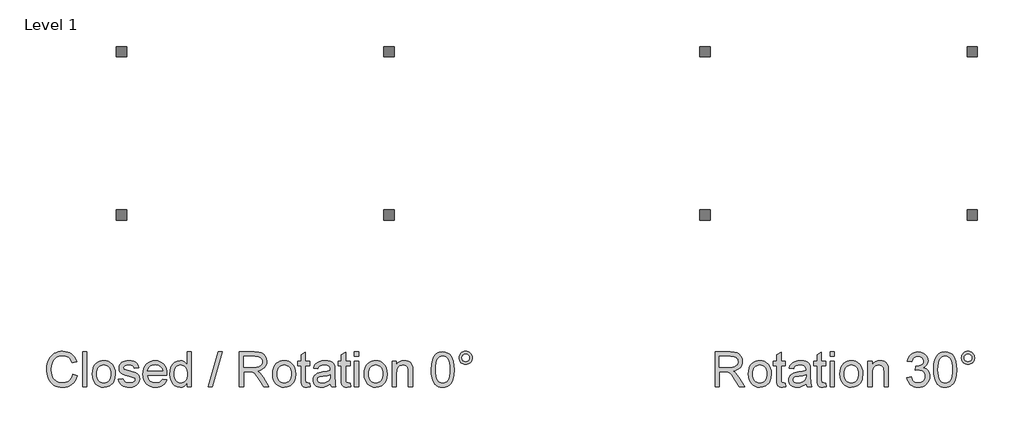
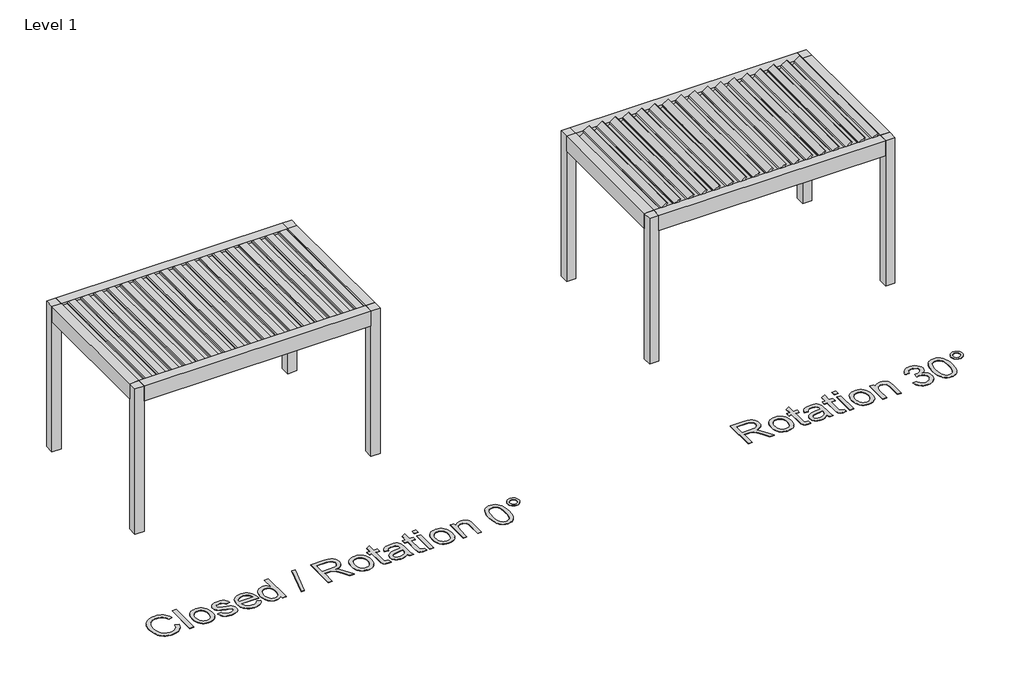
# One storey, part 44 of 69: 4 proxies.
"""IFC4 building model written with IfcOpenShell, lengths in millimetres."""

from ifc_helpers import new_model, si_unit, origin, origin_with_axes, place, context, project, spatial, polyline, outline, extrude, transform, mapped, element, save
from components import generic_models_9b0df196, generic_models_89878907

model = new_model("IFC4")

# Units and contexts
model_context = context("Model", 3, world=origin())
ifc_project = project(units=[si_unit("LENGTHUNIT", "METRE", prefix="MILLI")], contexts=[model_context])

# Site, building, storey
site = spatial("IfcSite", under=ifc_project)
building = spatial("IfcBuilding", under=site)
storey = spatial("IfcBuildingStorey", under=building, Name="Level 1", Elevation=0.0)

# Proxies
placement = place(None, origin())
generic_models_shape = generic_models_9b0df196(model_context)
element("IfcBuildingElementProxy", 1, Name="Renson_Camargue_Freestanding_Patio covers : Renson_Camargue_Freestanding_Patio covers", ObjectType="Renson_Camargue_Freestanding_Patio covers : Renson_Camargue_Freestanding_Patio covers", at=placement, inside=storey, context=model_context, shape_type="MappedRepresentation", body=[
    mapped(generic_models_shape, transform((-9296.834943, 67778.5861401, 0.0), x_axis=(1.0, 0.0, 0.0), y_axis=(0.0, 1.0, 0.0), z_axis=(0.0, 0.0, 1.0))),
])
generic_models_2_shape = generic_models_89878907(model_context)
element("IfcBuildingElementProxy", 2, Name="Renson_Camargue_Freestanding_Patio covers : Renson_Camargue_Freestanding_Patio covers", ObjectType="Renson_Camargue_Freestanding_Patio covers : Renson_Camargue_Freestanding_Patio covers", at=placement, inside=storey, context=model_context, shape_type="MappedRepresentation", body=[
    mapped(generic_models_2_shape, transform((-896.834943, 67778.5861401, 0.0), x_axis=(1.0, 0.0, 0.0), y_axis=(0.0, 1.0, 0.0), z_axis=(0.0, 0.0, 1.0))),
])
element("IfcBuildingElementProxy", 3, Name="500mm Arial", ObjectType="500mm Arial", at=placement, inside=storey, context=model_context, shape_type="SweptSolid", body=[
    extrude(outline(polyline([(-11927.2781087, 64307.1315351), (-11864.4929149, 64290.9447273), (-11876.9165964, 64251.8994185), (-11893.463622, 64217.7821955), (-11914.1339916, 64188.5930585), (-11938.9277053, 64164.3320073), (-11967.2852757, 64145.2596251), (-11998.6472158, 64131.636495), (-12033.0135255, 64123.4626169), (-12070.3842049, 64120.7379909), (-12108.6707571, 64122.7996629), (-12143.2095115, 64128.984679), (-12174.0004681, 64139.293039), (-12201.0436268, 64153.7247431), (-12224.7107018, 64172.0651934), (-12245.3734072, 64194.0997921), (-12263.031743, 64219.8285391), (-12277.6857091, 64249.2514346), (-12289.1935178, 64281.0962198), (-12297.4133811, 64314.0906362), (-12302.3452991, 64348.2346839), (-12303.9892718, 64383.5283628), (-12302.1307013, 64421.3972157), (-12296.5549898, 64456.7675367), (-12287.2621373, 64489.6393258), (-12274.2521439, 64520.012583), (-12257.8162493, 64547.3853027), (-12238.2456936, 64571.2554792), (-12215.5404767, 64591.6231126), (-12189.7005986, 64608.4882028), (-12161.6036112, 64621.7127941), (-12132.1270664, 64631.1589308), (-12101.270964, 64636.8266128), (-12069.0353042, 64638.7158401), (-12033.1246565, 64636.2709577), (-12000.1953859, 64628.9363104), (-11970.2474922, 64616.7118983), (-11943.2809755, 64599.5977213), (-11919.7403599, 64578.0459677), (-11900.0701695, 64552.5088259), (-11884.2704042, 64522.9862958), (-11872.3410641, 64489.4783774), (-11935.126258, 64474.5178429), (-11945.0130866, 64499.2080898), (-11956.8926093, 64520.3038229), (-11970.7648263, 64537.8050424), (-11986.6297373, 64551.7117483), (-12004.579313, 64562.3075161), (-12024.7055238, 64569.8759218), (-12047.0083698, 64574.4169651), (-12071.4878508, 64575.9306463), (-12099.6538161, 64574.2521847), (-12125.41322, 64569.2167999), (-12148.7660625, 64560.8244918), (-12169.7123436, 64549.0752606), (-12187.9876481, 64534.4979366), (-12203.3275609, 64517.62135), (-12215.7320819, 64498.445501), (-12225.2012112, 64476.9703896), (-12237.2033613, 64431.015797), (-12241.204078, 64383.6509901), (-12236.4675973, 64325.6482622), (-12222.2581552, 64275.4936835), (-12211.46695, 64253.8384632), (-12198.0392572, 64235.1033062), (-12181.9750767, 64219.2882125), (-12163.2744086, 64206.3931821), (-12121.5964443, 64189.2406841), (-12076.6381988, 64183.5231847), (-12049.3421212, 64185.4698936), (-12024.2303429, 64191.3100203), (-12001.302864, 64201.0435648), (-11980.5596844, 64214.670527), (-11962.4913135, 64232.1295934), (-11947.5882606, 64253.3594502), (-11935.8505256, 64278.3600974), (-11927.2781087, 64307.1315351)])), origin_with_axes(), (0.0, 0.0, 1.0), 5.0),
    extrude(outline(polyline([(-11786.0114226, 64128.5861401), (-11786.0114226, 64630.8676909), (-11723.2262287, 64630.8676909), (-11723.2262287, 64128.5861401), (-11786.0114226, 64128.5861401)])), origin_with_axes(), (0.0, 0.0, 1.0), 5.0),
    extrude(outline(polyline([(-11644.7447364, 64313.0176471), (-11641.3494922, 64360.788657), (-11631.1637595, 64401.9531194), (-11614.1875382, 64436.5110343), (-11590.4208285, 64464.4624017), (-11566.4931704, 64482.3276711), (-11540.0823088, 64495.0885778), (-11511.1882438, 64502.7451219), (-11479.8109753, 64505.2973032), (-11445.1725862, 64502.1894668), (-11413.8527992, 64492.8659574), (-11385.8516144, 64477.3267753), (-11361.1690318, 64455.5719202), (-11341.0236605, 64428.3371562), (-11326.6341095, 64396.3582474), (-11318.000379, 64359.6351936), (-11315.1224688, 64318.167995), (-11320.211503, 64254.7390076), (-11326.5727959, 64228.7036923), (-11335.4786058, 64206.4544958), (-11346.8178019, 64187.2364936), (-11360.4792531, 64170.2947613), (-11376.4629594, 64155.6292989), (-11394.7689207, 64143.2401063), (-11435.4965233, 64126.3635197), (-11479.8109753, 64120.7379909), (-11514.9552021, 64123.834331), (-11546.566229, 64133.1233514), (-11574.6440558, 64148.605052), (-11599.1886827, 64170.2794329), (-11619.1194562, 64197.7786121), (-11633.355723, 64230.7347075), (-11641.8974831, 64269.1477191), (-11644.7447364, 64313.0176471)]), holes=[polyline([(-11581.9595426, 64313.1402744), (-11580.1431252, 64282.686543), (-11574.6938732, 64256.3178345), (-11565.6117864, 64234.0341491), (-11552.896865, 64215.8354867), (-11537.4304928, 64201.6988546), (-11520.0940537, 64191.6012602), (-11500.8875479, 64185.5427036), (-11479.8109753, 64183.5231847), (-11458.8417015, 64185.5541999), (-11439.7118378, 64191.6472455), (-11422.421384, 64201.8023214), (-11406.9703402, 64216.0194277), (-11394.2554188, 64234.398199), (-11385.173332, 64257.0382701), (-11379.72408, 64283.939641), (-11377.9076626, 64315.1023117), (-11379.7355763, 64344.5903529), (-11385.2193173, 64370.2692826), (-11394.3588856, 64392.1391007), (-11407.1542812, 64410.1998074), (-11422.6628066, 64424.3364395), (-11439.941764, 64434.4340339), (-11458.9911536, 64440.4925905), (-11479.8109753, 64442.5121094), (-11500.8875479, 64440.5002547), (-11520.0940537, 64434.4646907), (-11537.4304928, 64424.4054174), (-11552.896865, 64410.3224348), (-11565.6117864, 64392.1774218), (-11574.6938732, 64369.9320574), (-11580.1431252, 64343.5863416), (-11581.9595426, 64313.1402744)])]), origin_with_axes(), (0.0, 0.0, 1.0), 5.0),
    extrude(outline(polyline([(-11268.0335734, 64238.4602294), (-11205.2483795, 64246.3083786), (-11195.3462225, 64219.4529929), (-11176.1857019, 64199.7099925), (-11147.6441905, 64187.5698867), (-11109.5990608, 64183.5231847), (-11072.0137836, 64187.2326615), (-11045.5875936, 64198.3610919), (-11029.9526088, 64214.486586), (-11024.7409472, 64233.1872541), (-11029.9832657, 64249.1901209), (-11045.710221, 64261.3915404), (-11110.3348248, 64279.2951308), (-11167.6324455, 64295.865149), (-11204.8804975, 64310.0132774), (-11228.8081556, 64325.4489928), (-11246.1445947, 64345.881772), (-11256.6752168, 64370.0086995), (-11260.1854241, 64396.52686), (-11257.3649955, 64420.8530569), (-11248.9037096, 64443.309187), (-11235.5679873, 64463.0062022), (-11218.1242494, 64479.0550542), (-11200.7878103, 64489.1564807), (-11178.2090529, 64497.633095), (-11152.1047596, 64503.3812511), (-11124.1917133, 64505.2973032), (-11083.326155, 64502.2162915), (-11047.7948856, 64492.9732564), (-11019.2227173, 64478.4725744), (-10999.2344622, 64459.6186221), (-10985.9907104, 64435.0165137), (-10977.6520519, 64403.2713632), (-11040.4372457, 64395.423214), (-11048.362037, 64415.1815428), (-11064.0430071, 64430.0654352), (-11087.63344, 64439.4004408), (-11119.28662, 64442.5121094), (-11155.3390555, 64439.5383966), (-11179.3740125, 64430.6172582), (-11192.8936759, 64417.7413883), (-11197.4002303, 64402.9034812), (-11195.5301635, 64393.2465788), (-11189.9199631, 64384.6320088), (-11180.3243744, 64376.9371437), (-11166.4981427, 64370.7751203), (-11112.4194894, 64357.4087411), (-11020.2650496, 64327.8555542), (-10995.9235243, 64313.7227542), (-10977.4681109, 64294.3782926), (-10965.8338428, 64269.7608558), (-10961.9557534, 64239.80913), (-10966.5082931, 64208.8457287), (-10980.1659122, 64179.7217375), (-11002.4074444, 64154.7210902), (-11032.7117238, 64136.127721), (-11069.3159823, 64124.5854234), (-11110.4574521, 64120.7379909), (-11144.2489462, 64122.5927293), (-11173.7638121, 64128.1569445), (-11199.0020498, 64137.4306364), (-11219.9636593, 64150.4138052), (-11237.0855005, 64167.045137), (-11250.8044333, 64187.2633184), (-11261.1204576, 64211.0683491), (-11268.0335734, 64238.4602294)])), origin_with_axes(), (0.0, 0.0, 1.0), 5.0),
    extrude(outline(polyline([(-10633.0692497, 64238.4602294), (-10571.5103292, 64230.6120801), (-10580.9488016, 64205.9563222), (-10593.6905478, 64184.2282919), (-10609.7355677, 64165.4279891), (-10629.0838614, 64149.5554139), (-10651.5361594, 64136.9477913), (-10676.8931924, 64127.9423466), (-10705.1549602, 64122.5390798), (-10736.321463, 64120.7379909), (-10775.2786335, 64123.8458273), (-10809.9898326, 64133.1693367), (-10840.4550603, 64148.7085189), (-10866.6743166, 64170.4633739), (-10887.7585535, 64197.8284294), (-10902.8187227, 64230.1982129), (-10911.8548242, 64267.5727243), (-10914.866858, 64309.9519638), (-10911.8241673, 64353.7682422), (-10902.6960953, 64392.3881875), (-10887.482642, 64425.8117996), (-10866.1838073, 64454.0390785), (-10840.0335288, 64476.4645518), (-10810.265744, 64492.482747), (-10776.880453, 64502.0936642), (-10739.8776556, 64505.2973032), (-10704.0666427, 64502.1013284), (-10671.6815308, 64492.5134039), (-10642.72232, 64476.5335297), (-10617.1890102, 64454.1617059), (-10596.346196, 64425.9957406), (-10581.4584715, 64392.6334422), (-10572.5258368, 64354.0748106), (-10569.5482919, 64310.3198458), (-10569.9161739, 64293.397274), (-10852.0816642, 64293.397274), (-10848.4449974, 64268.3429773), (-10841.2138169, 64246.4003491), (-10830.3881228, 64227.5693895), (-10815.967915, 64211.8500984), (-10798.7502712, 64199.4570737), (-10779.532269, 64190.6049132), (-10758.3139085, 64185.2936169), (-10735.0951897, 64183.5231847), (-10701.6792418, 64186.8034659), (-10673.5362692, 64196.6443092), (-10650.6662718, 64213.6588515), (-10633.0692497, 64238.4602294)]), holes=[polyline([(-10852.0816642, 64356.1824678), (-10632.3334857, 64356.1824678), (-10640.8254284, 64389.353161), (-10657.4720887, 64413.0815497), (-10674.5939299, 64425.9574196), (-10694.0763472, 64435.1544694), (-10715.9193407, 64440.6726994), (-10740.1229103, 64442.5121094), (-10782.4446682, 64436.6413258), (-10800.8579284, 64429.3028465), (-10817.439443, 64419.0289753), (-10831.353813, 64406.2948933), (-10841.7656399, 64391.5757814), (-10848.6749236, 64374.8716396), (-10852.0816642, 64356.1824678)])]), origin_with_axes(), (0.0, 0.0, 1.0), 5.0),
    extrude(outline(polyline([(-10279.1667703, 64128.5861401), (-10279.1667703, 64187.8151414), (-10297.9517447, 64158.468888), (-10320.706779, 64137.5072785), (-10347.4318731, 64124.9303128), (-10378.127027, 64120.7379909), (-10418.7166738, 64126.8080438), (-10455.8727554, 64145.0182026), (-10487.3266659, 64174.0962086), (-10510.8098, 64212.7698034), (-10525.4331093, 64259.4754883), (-10530.3075457, 64312.6497651), (-10525.8163197, 64365.1649199), (-10512.3426416, 64412.5910404), (-10502.2412152, 64433.7212625), (-10489.9018399, 64452.2303254), (-10475.3245159, 64468.1182291), (-10458.509243, 64481.3849735), (-10420.5407554, 64499.3192208), (-10378.3722817, 64505.2973032), (-10347.6541351, 64501.020675), (-10320.4921811, 64488.1907904), (-10297.4688996, 64468.5244321), (-10279.1667703, 64443.7383827), (-10279.1667703, 64630.8676909), (-10216.3815765, 64630.8676909), (-10216.3815765, 64128.5861401), (-10279.1667703, 64128.5861401)]), holes=[polyline([(-10467.5223519, 64312.8950197), (-10465.7519198, 64282.4489525), (-10460.4406235, 64256.1032367), (-10451.588463, 64233.8578723), (-10439.1954382, 64215.7128593), (-10424.3958521, 64201.6298767), (-10408.3240075, 64191.5706034), (-10390.9799043, 64185.5350394), (-10372.3635425, 64183.5231847), (-10353.6590423, 64185.4430689), (-10336.4184058, 64191.2027214), (-10320.6416332, 64200.8021422), (-10306.3287243, 64214.2413313), (-10294.4453695, 64231.6275877), (-10285.9572588, 64253.0682103), (-10280.8643925, 64278.5631989), (-10279.1667703, 64308.1125538), (-10280.8950493, 64340.509162), (-10286.0798862, 64368.2919168), (-10294.721281, 64391.4608183), (-10306.8192336, 64410.0158664), (-10321.4463751, 64424.2329727), (-10337.675336, 64434.3880486), (-10355.5061164, 64440.4810942), (-10374.9387164, 64442.5121094), (-10393.9229602, 64440.5615684), (-10411.2670634, 64434.7099454), (-10426.9710261, 64424.9572404), (-10441.0348482, 64411.3034534), (-10452.6231311, 64393.4496804), (-10460.900476, 64371.097017), (-10465.8668829, 64344.2454635), (-10467.5223519, 64312.8950197)])]), origin_with_axes(), (0.0, 0.0, 1.0), 5.0),
    extrude(outline(polyline([(-9973.0889504, 64128.5861401), (-9831.8222642, 64630.8676909), (-9775.168437, 64630.8676909), (-9916.4351231, 64128.5861401), (-9973.0889504, 64128.5861401)])), origin_with_axes(), (0.0, 0.0, 1.0), 5.0),
    extrude(outline(polyline([(-9525.7444442, 64128.5861401), (-9525.7444442, 64630.8676909), (-9309.3072037, 64630.8676909), (-9251.1358632, 64627.4801108), (-9208.8141054, 64617.3173707), (-9177.881361, 64598.555389), (-9153.8770608, 64569.370084), (-9138.4720022, 64533.1796927), (-9133.3369827, 64493.402452), (-9135.4638005, 64467.6047271), (-9141.8442538, 64443.9223237), (-9152.4783428, 64422.3552417), (-9167.3660673, 64402.9034812), (-9186.6990325, 64386.187843), (-9210.6688438, 64372.8291281), (-9239.275501, 64362.8273364), (-9272.5190042, 64356.1824678), (-9251.825642, 64342.6628045), (-9236.8344507, 64329.3270822), (-9185.944108, 64264.7024784), (-9102.1896404, 64128.5861401), (-9175.1529028, 64128.5861401), (-9240.5132706, 64232.6967448), (-9287.7247933, 64301.6133052), (-9305.2758302, 64321.7088592), (-9320.8954866, 64334.1708618), (-9350.7552419, 64346.1270266), (-9387.1755594, 64348.3343186), (-9462.9592504, 64348.3343186), (-9462.9592504, 64128.5861401), (-9525.7444442, 64128.5861401)]), holes=[polyline([(-9462.9592504, 64411.1195124), (-9322.4283282, 64411.1195124), (-9282.0686077, 64413.3421328), (-9250.7526528, 64420.009994), (-9227.1775483, 64431.56762), (-9210.0403787, 64448.4595349), (-9199.6017271, 64468.8923141), (-9196.1221765, 64491.0725327), (-9197.7814776, 64507.129049), (-9202.7593809, 64521.6987088), (-9211.0558863, 64534.7815123), (-9222.6709939, 64546.3774593), (-9237.8729509, 64555.8734133), (-9256.9300047, 64562.6562376), (-9306.6094024, 64568.082497), (-9462.9592504, 64568.082497), (-9462.9592504, 64411.1195124)])]), origin_with_axes(), (0.0, 0.0, 1.0), 5.0),
    extrude(outline(polyline([(-9047.0073412, 64313.0176471), (-9043.6120969, 64360.788657), (-9033.4263642, 64401.9531194), (-9016.4501429, 64436.5110343), (-8992.6834332, 64464.4624017), (-8968.7557751, 64482.3276711), (-8942.3449135, 64495.0885778), (-8913.4508485, 64502.7451219), (-8882.07358, 64505.2973032), (-8847.4351909, 64502.1894668), (-8816.1154039, 64492.8659574), (-8788.1142192, 64477.3267753), (-8763.4316366, 64455.5719202), (-8743.2862652, 64428.3371562), (-8728.8967143, 64396.3582474), (-8720.2629837, 64359.6351936), (-8717.3850735, 64318.167995), (-8722.4741078, 64254.7390076), (-8728.8354006, 64228.7036923), (-8737.7412106, 64206.4544958), (-8749.0804066, 64187.2364936), (-8762.7418578, 64170.2947613), (-8778.7255641, 64155.6292989), (-8797.0315254, 64143.2401063), (-8837.759128, 64126.3635197), (-8882.07358, 64120.7379909), (-8917.2178068, 64123.834331), (-8948.8288337, 64133.1233514), (-8976.9066606, 64148.605052), (-9001.4512874, 64170.2794329), (-9021.3820609, 64197.7786121), (-9035.6183277, 64230.7347075), (-9044.1600878, 64269.1477191), (-9047.0073412, 64313.0176471)]), holes=[polyline([(-8984.2221473, 64313.1402744), (-8982.40573, 64282.686543), (-8976.9564779, 64256.3178345), (-8967.8743912, 64234.0341491), (-8955.1594697, 64215.8354867), (-8939.6930975, 64201.6988546), (-8922.3566585, 64191.6012602), (-8903.1501526, 64185.5427036), (-8882.07358, 64183.5231847), (-8861.1043063, 64185.5541999), (-8841.9744425, 64191.6472455), (-8824.6839887, 64201.8023214), (-8809.232945, 64216.0194277), (-8796.5180235, 64234.398199), (-8787.4359367, 64257.0382701), (-8781.9866847, 64283.939641), (-8780.1702673, 64315.1023117), (-8781.998181, 64344.5903529), (-8787.481922, 64370.2692826), (-8796.6214903, 64392.1391007), (-8809.4168859, 64410.1998074), (-8824.9254113, 64424.3364395), (-8842.2043688, 64434.4340339), (-8861.2537583, 64440.4925905), (-8882.07358, 64442.5121094), (-8903.1501526, 64440.5002547), (-8922.3566585, 64434.4646907), (-8939.6930975, 64424.4054174), (-8955.1594697, 64410.3224348), (-8967.8743912, 64392.1774218), (-8976.9564779, 64369.9320574), (-8982.40573, 64343.5863416), (-8984.2221473, 64313.1402744)])]), origin_with_axes(), (0.0, 0.0, 1.0), 5.0),
    extrude(outline(polyline([(-8513.3331935, 64180.9480108), (-8505.4850443, 64126.7467302), (-8552.4513123, 64120.7379909), (-8582.5869791, 64123.3438217), (-8605.0584376, 64131.1613141), (-8620.9386771, 64143.2094494), (-8631.3006866, 64158.5072091), (-8637.0028575, 64184.7801149), (-8638.9035812, 64229.7536888), (-8638.9035812, 64434.6639601), (-8685.9924766, 64434.6639601), (-8685.9924766, 64497.449154), (-8638.9035812, 64497.449154), (-8638.9035812, 64587.0897335), (-8576.1183873, 64624.0005603), (-8576.1183873, 64497.449154), (-8513.3331935, 64497.449154), (-8513.3331935, 64434.6639601), (-8576.1183873, 64434.6639601), (-8576.1183873, 64231.5930988), (-8572.8074494, 64199.2194832), (-8562.0775579, 64187.7538277), (-8540.6790885, 64183.5231847), (-8513.3331935, 64180.9480108)])), origin_with_axes(), (0.0, 0.0, 1.0), 5.0),
    extrude(outline(polyline([(-8215.1035227, 64175.6750355), (-8245.1012338, 64149.9539527), (-8275.9879929, 64133.1233514), (-8308.4689074, 64123.834331), (-8343.2490844, 64120.7379909), (-8371.2042839, 64122.6003935), (-8395.718254, 64128.1876013), (-8416.7909945, 64137.4996143), (-8434.4225055, 64150.5364325), (-8448.3445398, 64166.4703214), (-8458.28885, 64184.4735466), (-8464.2554361, 64204.5461079), (-8466.2442981, 64226.6880055), (-8463.2399285, 64252.7156567), (-8454.2268196, 64276.3520749), (-8440.3239459, 64296.5855846), (-8422.6502817, 64312.4045104), (-8401.8802774, 64324.3606752), (-8378.6883833, 64333.0059021), (-8324.3644753, 64342.4482067), (-8260.1690671, 64352.3810205), (-8215.4714047, 64364.030617), (-8215.1035227, 64378.0101329), (-8219.4261362, 64406.0304782), (-8232.3939765, 64424.3632643), (-8245.4691158, 64432.303384), (-8261.3953405, 64437.9748981), (-8301.8010463, 64442.5121094), (-8339.2023824, 64439.4924113), (-8365.3220041, 64430.4333172), (-8383.133624, 64413.679358), (-8395.610955, 64387.5750647), (-8458.3961489, 64395.423214), (-8447.4976448, 64429.7588669), (-8431.2341949, 64456.7368798), (-8408.088286, 64477.3689284), (-8376.542405, 64492.666688), (-8337.9607807, 64502.1396494), (-8293.7076424, 64505.2973032), (-8251.2632572, 64502.5075314), (-8217.617383, 64494.138216), (-8192.2488538, 64481.5535861), (-8174.6365033, 64466.1178707), (-8162.9562499, 64447.0339922), (-8155.3840122, 64423.5048729), (-8152.3183289, 64368.5678283), (-8152.3183289, 64290.454218), (-8149.1300183, 64181.3772064), (-8144.408866, 64154.4145219), (-8136.6220304, 64128.5861401), (-8199.4072243, 64128.5861401), (-8209.4626655, 64150.4138052), (-8215.1035227, 64175.6750355)]), holes=[polyline([(-8215.1035227, 64301.2454232), (-8257.2873249, 64290.7914432), (-8316.3936987, 64281.9929321), (-8370.4110384, 64271.8148636), (-8384.4671963, 64264.8557625), (-8394.875191, 64255.2601738), (-8401.313126, 64243.7638615), (-8403.4591043, 64231.1025895), (-8398.7839372, 64212.4325782), (-8384.7584362, 64197.1348186), (-8361.6891694, 64186.9260932), (-8329.8827052, 64183.5231847), (-8296.160189, 64187.2786468), (-8266.3617474, 64198.5450329), (-8242.2041631, 64215.1457079), (-8225.4042186, 64234.9040367), (-8217.9546082, 64255.2601738), (-8215.4714047, 64283.4644601), (-8215.1035227, 64301.2454232)])]), origin_with_axes(), (0.0, 0.0, 1.0), 5.0),
    extrude(outline(polyline([(-7932.5701504, 64180.9480108), (-7924.7220012, 64126.7467302), (-7971.6882693, 64120.7379909), (-8001.823936, 64123.3438217), (-8024.2953946, 64131.1613141), (-8040.175634, 64143.2094494), (-8050.5376436, 64158.5072091), (-8056.2398145, 64184.7801149), (-8058.1405381, 64229.7536888), (-8058.1405381, 64434.6639601), (-8105.2294335, 64434.6639601), (-8105.2294335, 64497.449154), (-8058.1405381, 64497.449154), (-8058.1405381, 64587.0897335), (-7995.3553443, 64624.0005603), (-7995.3553443, 64497.449154), (-7932.5701504, 64497.449154), (-7932.5701504, 64434.6639601), (-7995.3553443, 64434.6639601), (-7995.3553443, 64231.5930988), (-7992.0444063, 64199.2194832), (-7981.3145148, 64187.7538277), (-7959.9160454, 64183.5231847), (-7932.5701504, 64180.9480108)])), origin_with_axes(), (0.0, 0.0, 1.0), 5.0),
    extrude(outline(polyline([(-7869.7849566, 64128.5861401), (-7869.7849566, 64497.449154), (-7806.9997628, 64497.449154), (-7806.9997628, 64128.5861401), (-7869.7849566, 64128.5861401)])), origin_with_axes(), (0.0, 0.0, 1.0), 5.0),
    extrude(outline(polyline([(-7869.7849566, 64568.082497), (-7869.7849566, 64630.8676909), (-7806.9997628, 64630.8676909), (-7806.9997628, 64568.082497), (-7869.7849566, 64568.082497)])), origin_with_axes(), (0.0, 0.0, 1.0), 5.0),
    extrude(outline(polyline([(-7728.5182705, 64313.0176471), (-7725.1230262, 64360.788657), (-7714.9372935, 64401.9531194), (-7697.9610722, 64436.5110343), (-7674.1943625, 64464.4624017), (-7650.2667044, 64482.3276711), (-7623.8558428, 64495.0885778), (-7594.9617778, 64502.7451219), (-7563.5845093, 64505.2973032), (-7528.9461202, 64502.1894668), (-7497.6263332, 64492.8659574), (-7469.6251485, 64477.3267753), (-7444.9425658, 64455.5719202), (-7424.7971945, 64428.3371562), (-7410.4076435, 64396.3582474), (-7401.773913, 64359.6351936), (-7398.8960028, 64318.167995), (-7403.985037, 64254.7390076), (-7410.3463299, 64228.7036923), (-7419.2521398, 64206.4544958), (-7430.5913359, 64187.2364936), (-7444.2527871, 64170.2947613), (-7460.2364934, 64155.6292989), (-7478.5424547, 64143.2401063), (-7519.2700573, 64126.3635197), (-7563.5845093, 64120.7379909), (-7598.7287361, 64123.834331), (-7630.339763, 64133.1233514), (-7658.4175899, 64148.605052), (-7682.9622167, 64170.2794329), (-7702.8929902, 64197.7786121), (-7717.129257, 64230.7347075), (-7725.6710171, 64269.1477191), (-7728.5182705, 64313.0176471)]), holes=[polyline([(-7665.7330766, 64313.1402744), (-7663.9166593, 64282.686543), (-7658.4674072, 64256.3178345), (-7649.3853204, 64234.0341491), (-7636.670399, 64215.8354867), (-7621.2040268, 64201.6988546), (-7603.8675878, 64191.6012602), (-7584.6610819, 64185.5427036), (-7563.5845093, 64183.5231847), (-7542.6152356, 64185.5541999), (-7523.4853718, 64191.6472455), (-7506.194918, 64201.8023214), (-7490.7438742, 64216.0194277), (-7478.0289528, 64234.398199), (-7468.946866, 64257.0382701), (-7463.497614, 64283.939641), (-7461.6811966, 64315.1023117), (-7463.5091103, 64344.5903529), (-7468.9928513, 64370.2692826), (-7478.1324196, 64392.1391007), (-7490.9278152, 64410.1998074), (-7506.4363406, 64424.3364395), (-7523.7152981, 64434.4340339), (-7542.7646876, 64440.4925905), (-7563.5845093, 64442.5121094), (-7584.6610819, 64440.5002547), (-7603.8675878, 64434.4646907), (-7621.2040268, 64424.4054174), (-7636.670399, 64410.3224348), (-7649.3853204, 64392.1774218), (-7658.4674072, 64369.9320574), (-7663.9166593, 64343.5863416), (-7665.7330766, 64313.1402744)])]), origin_with_axes(), (0.0, 0.0, 1.0), 5.0),
    extrude(outline(polyline([(-7328.2626597, 64128.5861401), (-7328.2626597, 64497.449154), (-7265.4774659, 64497.449154), (-7265.4774659, 64445.9456746), (-7243.6651292, 64471.9120121), (-7217.4688655, 64490.4593961), (-7186.8886746, 64501.5878264), (-7151.9245567, 64505.2973032), (-7120.9764838, 64502.308262), (-7092.6342418, 64493.3411384), (-7068.9978236, 64479.5149067), (-7052.1672223, 64461.9485414), (-7040.7475521, 64440.6880278), (-7033.3439269, 64415.779351), (-7030.0329889, 64355.0788218), (-7030.0329889, 64128.5861401), (-7092.8181828, 64128.5861401), (-7092.8181828, 64346.6175359), (-7094.6269359, 64379.083122), (-7100.0531954, 64402.1677172), (-7110.0626513, 64418.7070786), (-7125.620994, 64431.5369632), (-7145.5632638, 64439.7683228), (-7168.7245011, 64442.5121094), (-7187.7892191, 64440.9716035), (-7205.4973722, 64436.3500859), (-7221.8489605, 64428.6475567), (-7236.8439839, 64417.8640157), (-7249.3711323, 64402.7731897), (-7258.3190954, 64382.1488053), (-7263.6878732, 64355.9908626), (-7265.4774659, 64324.2993616), (-7265.4774659, 64128.5861401), (-7328.2626597, 64128.5861401)])), origin_with_axes(), (0.0, 0.0, 1.0), 5.0),
    extrude(outline(polyline([(-6763.1959151, 64375.6802136), (-6758.5820618, 64456.0777579), (-6744.7405017, 64520.196524), (-6734.3938206, 64546.3966198), (-6721.8091907, 64569.0175304), (-6706.9866119, 64588.0592558), (-6689.9260844, 64603.5217959), (-6670.5701265, 64615.485625), (-6648.8612567, 64624.0312171), (-6624.7994749, 64629.1585724), (-6598.3847813, 64630.8676909), (-6559.6958581, 64626.8209889), (-6525.0536369, 64614.6808831), (-6496.0829298, 64594.9225543), (-6474.4085489, 64568.0211834), (-6458.0378001, 64534.2066967), (-6444.9779893, 64493.7090203), (-6436.4247329, 64442.2821831), (-6433.5736474, 64375.6802136), (-6438.1415155, 64295.7425217), (-6451.8451199, 64231.7770398), (-6462.1113268, 64205.5654476), (-6474.6384751, 64182.9100481), (-6489.4265649, 64163.8108412), (-6506.4755961, 64148.2678269), (-6525.8545467, 64136.2235236), (-6547.6323944, 64127.6204499), (-6571.8091392, 64122.4586057), (-6598.3847813, 64120.7379909), (-6632.9656888, 64123.7270321), (-6663.6225217, 64132.6941557), (-6690.3552801, 64147.6393618), (-6713.1639638, 64168.5626503), (-6735.0529425, 64206.3855179), (-6750.6879273, 64253.5127343), (-6760.0689181, 64309.9442995), (-6763.1959151, 64375.6802136)]), holes=[polyline([(-6700.4107213, 64375.8028409), (-6698.5713113, 64321.222182), (-6693.0530814, 64277.0418536), (-6683.8560315, 64243.2618558), (-6670.9801617, 64219.8821886), (-6655.4064905, 64203.9751244), (-6638.1160367, 64192.6129357), (-6619.1088003, 64185.7956225), (-6598.3847813, 64183.5231847), (-6577.6607622, 64185.8032867), (-6558.6535258, 64192.6435925), (-6541.363072, 64204.0441023), (-6525.7894009, 64220.0048159), (-6512.9135311, 64243.4228042), (-6503.7164812, 64277.1951378), (-6498.1982512, 64321.3218167), (-6496.3588413, 64375.8028409), (-6498.1369376, 64428.9387966), (-6503.4712265, 64472.3412078), (-6512.3617081, 64506.0100746), (-6524.8083822, 64529.9453969), (-6540.1214703, 64546.6303782), (-6557.6111935, 64558.548222), (-6577.2775518, 64565.6989283), (-6599.1205453, 64568.082497), (-6619.7372654, 64565.982504), (-6638.4226051, 64559.6825248), (-6655.1765643, 64549.1825595), (-6669.999143, 64534.4826081), (-6683.3042085, 64508.4243002), (-6692.8078267, 64473.2915696), (-6698.5099976, 64429.0844165), (-6700.4107213, 64375.8028409)])]), origin_with_axes(), (0.0, 0.0, 1.0), 5.0),
    extrude(outline(polyline([(-6362.9403044, 64544.6606767), (-6361.2120254, 64563.4916363), (-6356.0271885, 64580.8663964), (-6347.3857937, 64596.7849569), (-6335.2878411, 64611.2473178), (-6320.7679986, 64623.2647963), (-6304.8609344, 64631.8487095), (-6287.5666485, 64636.9990575), (-6268.8851409, 64638.7158401), (-6249.9468824, 64636.9990575), (-6232.4954802, 64631.8487095), (-6216.5309345, 64623.2647963), (-6202.0532451, 64611.2473178), (-6190.0357666, 64596.7849569), (-6181.4518534, 64580.8663964), (-6176.3015055, 64563.4916363), (-6174.5847228, 64544.6606767), (-6176.3130018, 64525.8718702), (-6181.4978387, 64508.5009422), (-6190.1392334, 64492.5478928), (-6202.2371861, 64478.0127219), (-6216.772357, 64465.9147692), (-6232.7254065, 64457.2733744), (-6250.0963344, 64452.0885375), (-6268.8851409, 64450.3602586), (-6287.5666485, 64452.0770412), (-6304.8609344, 64457.2273892), (-6320.7679986, 64465.8113024), (-6335.2878411, 64477.8287809), (-6347.3857937, 64492.3064702), (-6356.0271885, 64508.271016), (-6361.2120254, 64525.7224181), (-6362.9403044, 64544.6606767)]), holes=[polyline([(-6323.6995582, 64544.5380493), (-6319.6681847, 64523.4154915), (-6307.5740641, 64505.6651852), (-6289.7777726, 64493.6170498), (-6268.6398863, 64489.6010047), (-6247.685941, 64493.6170498), (-6229.9509631, 64505.6651852), (-6217.8568425, 64523.4154915), (-6213.825469, 64544.5380493), (-6217.8568425, 64565.6606072), (-6229.9509631, 64583.4109135), (-6247.685941, 64595.4590488), (-6268.6398863, 64599.475094), (-6289.7777726, 64595.4590488), (-6307.5740641, 64583.4109135), (-6319.6681847, 64565.6606072), (-6323.6995582, 64544.5380493)])]), origin_with_axes(), (0.0, 0.0, 1.0), 5.0),
])
element("IfcBuildingElementProxy", 4, Name="500mm Arial", ObjectType="500mm Arial", at=placement, inside=storey, context=model_context, shape_type="SweptSolid", body=[
    extrude(outline(polyline([(-2675.0312961, 64128.5861401), (-2675.0312961, 64630.8676909), (-2458.5940556, 64630.8676909), (-2400.4227151, 64627.4801108), (-2358.1009573, 64617.3173707), (-2327.1682129, 64598.555389), (-2303.1639127, 64569.370084), (-2287.7588541, 64533.1796927), (-2282.6238346, 64493.402452), (-2284.7506524, 64467.6047271), (-2291.1311057, 64443.9223237), (-2301.7651947, 64422.3552417), (-2316.6529192, 64402.9034812), (-2335.9858844, 64386.187843), (-2359.9556957, 64372.8291281), (-2388.5623529, 64362.8273364), (-2421.8058561, 64356.1824678), (-2401.1124939, 64342.6628045), (-2386.1213026, 64329.3270822), (-2335.2309599, 64264.7024784), (-2251.4764924, 64128.5861401), (-2324.4397547, 64128.5861401), (-2389.8001225, 64232.6967448), (-2437.0116453, 64301.6133052), (-2454.5626821, 64321.7088592), (-2470.1823385, 64334.1708618), (-2500.0420938, 64346.1270266), (-2536.4624113, 64348.3343186), (-2612.2461023, 64348.3343186), (-2612.2461023, 64128.5861401), (-2675.0312961, 64128.5861401)]), holes=[polyline([(-2612.2461023, 64411.1195124), (-2471.7151801, 64411.1195124), (-2431.3554596, 64413.3421328), (-2400.0395047, 64420.009994), (-2376.4644002, 64431.56762), (-2359.3272306, 64448.4595349), (-2348.888579, 64468.8923141), (-2345.4090285, 64491.0725327), (-2347.0683295, 64507.129049), (-2352.0462328, 64521.6987088), (-2360.3427382, 64534.7815123), (-2371.9578458, 64546.3774593), (-2387.1598028, 64555.8734133), (-2406.2168566, 64562.6562376), (-2455.8962543, 64568.082497), (-2612.2461023, 64568.082497), (-2612.2461023, 64411.1195124)])]), origin_with_axes(), (0.0, 0.0, 1.0), 5.0),
    extrude(outline(polyline([(-2196.2941931, 64313.0176471), (-2192.8989488, 64360.788657), (-2182.7132161, 64401.9531194), (-2165.7369949, 64436.5110343), (-2141.9702851, 64464.4624017), (-2118.042627, 64482.3276711), (-2091.6317654, 64495.0885778), (-2062.7377004, 64502.7451219), (-2031.3604319, 64505.2973032), (-1996.7220428, 64502.1894668), (-1965.4022559, 64492.8659574), (-1937.4010711, 64477.3267753), (-1912.7184885, 64455.5719202), (-1892.5731171, 64428.3371562), (-1878.1835662, 64396.3582474), (-1869.5498356, 64359.6351936), (-1866.6719254, 64318.167995), (-1871.7609597, 64254.7390076), (-1878.1222525, 64228.7036923), (-1887.0280625, 64206.4544958), (-1898.3672585, 64187.2364936), (-1912.0287097, 64170.2947613), (-1928.012416, 64155.6292989), (-1946.3183774, 64143.2401063), (-1987.0459799, 64126.3635197), (-2031.3604319, 64120.7379909), (-2066.5046588, 64123.834331), (-2098.1156856, 64133.1233514), (-2126.1935125, 64148.605052), (-2150.7381393, 64170.2794329), (-2170.6689128, 64197.7786121), (-2184.9051796, 64230.7347075), (-2193.4469397, 64269.1477191), (-2196.2941931, 64313.0176471)]), holes=[polyline([(-2133.5089992, 64313.1402744), (-2131.6925819, 64282.686543), (-2126.2433298, 64256.3178345), (-2117.1612431, 64234.0341491), (-2104.4463216, 64215.8354867), (-2088.9799494, 64201.6988546), (-2071.6435104, 64191.6012602), (-2052.4370045, 64185.5427036), (-2031.3604319, 64183.5231847), (-2010.3911582, 64185.5541999), (-1991.2612944, 64191.6472455), (-1973.9708407, 64201.8023214), (-1958.5197969, 64216.0194277), (-1945.8048754, 64234.398199), (-1936.7227886, 64257.0382701), (-1931.2735366, 64283.939641), (-1929.4571192, 64315.1023117), (-1931.2850329, 64344.5903529), (-1936.7687739, 64370.2692826), (-1945.9083422, 64392.1391007), (-1958.7037379, 64410.1998074), (-1974.2122632, 64424.3364395), (-1991.4912207, 64434.4340339), (-2010.5406102, 64440.4925905), (-2031.3604319, 64442.5121094), (-2052.4370045, 64440.5002547), (-2071.6435104, 64434.4646907), (-2088.9799494, 64424.4054174), (-2104.4463216, 64410.3224348), (-2117.1612431, 64392.1774218), (-2126.2433298, 64369.9320574), (-2131.6925819, 64343.5863416), (-2133.5089992, 64313.1402744)])]), origin_with_axes(), (0.0, 0.0, 1.0), 5.0),
    extrude(outline(polyline([(-1662.6200454, 64180.9480108), (-1654.7718962, 64126.7467302), (-1701.7381642, 64120.7379909), (-1731.873831, 64123.3438217), (-1754.3452895, 64131.1613141), (-1770.225529, 64143.2094494), (-1780.5875385, 64158.5072091), (-1786.2897095, 64184.7801149), (-1788.1904331, 64229.7536888), (-1788.1904331, 64434.6639601), (-1835.2793285, 64434.6639601), (-1835.2793285, 64497.449154), (-1788.1904331, 64497.449154), (-1788.1904331, 64587.0897335), (-1725.4052392, 64624.0005603), (-1725.4052392, 64497.449154), (-1662.6200454, 64497.449154), (-1662.6200454, 64434.6639601), (-1725.4052392, 64434.6639601), (-1725.4052392, 64231.5930988), (-1722.0943013, 64199.2194832), (-1711.3644098, 64187.7538277), (-1689.9659404, 64183.5231847), (-1662.6200454, 64180.9480108)])), origin_with_axes(), (0.0, 0.0, 1.0), 5.0),
    extrude(outline(polyline([(-1364.3903746, 64175.6750355), (-1394.3880857, 64149.9539527), (-1425.2748449, 64133.1233514), (-1457.7557593, 64123.834331), (-1492.5359363, 64120.7379909), (-1520.4911358, 64122.6003935), (-1545.0051059, 64128.1876013), (-1566.0778464, 64137.4996143), (-1583.7093574, 64150.5364325), (-1597.6313917, 64166.4703214), (-1607.5757019, 64184.4735466), (-1613.542288, 64204.5461079), (-1615.53115, 64226.6880055), (-1612.5267804, 64252.7156567), (-1603.5136715, 64276.3520749), (-1589.6107978, 64296.5855846), (-1571.9371336, 64312.4045104), (-1551.1671293, 64324.3606752), (-1527.9752352, 64333.0059021), (-1473.6513272, 64342.4482067), (-1409.4559191, 64352.3810205), (-1364.7582566, 64364.030617), (-1364.3903746, 64378.0101329), (-1368.7129881, 64406.0304782), (-1381.6808284, 64424.3632643), (-1394.7559677, 64432.303384), (-1410.6821924, 64437.9748981), (-1451.0878982, 64442.5121094), (-1488.4892344, 64439.4924113), (-1514.608856, 64430.4333172), (-1532.4204759, 64413.679358), (-1544.8978069, 64387.5750647), (-1607.6830008, 64395.423214), (-1596.7844967, 64429.7588669), (-1580.5210468, 64456.7368798), (-1557.375138, 64477.3689284), (-1525.8292569, 64492.666688), (-1487.2476326, 64502.1396494), (-1442.9944943, 64505.2973032), (-1400.5501091, 64502.5075314), (-1366.9042349, 64494.138216), (-1341.5357057, 64481.5535861), (-1323.9233552, 64466.1178707), (-1312.2431018, 64447.0339922), (-1304.6708641, 64423.5048729), (-1301.6051808, 64368.5678283), (-1301.6051808, 64290.454218), (-1298.4168702, 64181.3772064), (-1293.6957179, 64154.4145219), (-1285.9088823, 64128.5861401), (-1348.6940762, 64128.5861401), (-1358.7495174, 64150.4138052), (-1364.3903746, 64175.6750355)]), holes=[polyline([(-1364.3903746, 64301.2454232), (-1406.5741768, 64290.7914432), (-1465.6805507, 64281.9929321), (-1519.6978903, 64271.8148636), (-1533.7540482, 64264.8557625), (-1544.162043, 64255.2601738), (-1550.5999779, 64243.7638615), (-1552.7459562, 64231.1025895), (-1548.0707892, 64212.4325782), (-1534.0452881, 64197.1348186), (-1510.9760213, 64186.9260932), (-1479.1695571, 64183.5231847), (-1445.4470409, 64187.2786468), (-1415.6485993, 64198.5450329), (-1391.491015, 64215.1457079), (-1374.6910705, 64234.9040367), (-1367.2414601, 64255.2601738), (-1364.7582566, 64283.4644601), (-1364.3903746, 64301.2454232)])]), origin_with_axes(), (0.0, 0.0, 1.0), 5.0),
    extrude(outline(polyline([(-1081.8570024, 64180.9480108), (-1074.0088531, 64126.7467302), (-1120.9751212, 64120.7379909), (-1151.1107879, 64123.3438217), (-1173.5822465, 64131.1613141), (-1189.4624859, 64143.2094494), (-1199.8244955, 64158.5072091), (-1205.5266664, 64184.7801149), (-1207.42739, 64229.7536888), (-1207.42739, 64434.6639601), (-1254.5162854, 64434.6639601), (-1254.5162854, 64497.449154), (-1207.42739, 64497.449154), (-1207.42739, 64587.0897335), (-1144.6421962, 64624.0005603), (-1144.6421962, 64497.449154), (-1081.8570024, 64497.449154), (-1081.8570024, 64434.6639601), (-1144.6421962, 64434.6639601), (-1144.6421962, 64231.5930988), (-1141.3312582, 64199.2194832), (-1130.6013667, 64187.7538277), (-1109.2028973, 64183.5231847), (-1081.8570024, 64180.9480108)])), origin_with_axes(), (0.0, 0.0, 1.0), 5.0),
    extrude(outline(polyline([(-1019.0718085, 64568.082497), (-1019.0718085, 64630.8676909), (-956.2866147, 64630.8676909), (-956.2866147, 64568.082497), (-1019.0718085, 64568.082497)])), origin_with_axes(), (0.0, 0.0, 1.0), 5.0),
    extrude(outline(polyline([(-1019.0718085, 64128.5861401), (-1019.0718085, 64497.449154), (-956.2866147, 64497.449154), (-956.2866147, 64128.5861401), (-1019.0718085, 64128.5861401)])), origin_with_axes(), (0.0, 0.0, 1.0), 5.0),
    extrude(outline(polyline([(-877.8051224, 64313.0176471), (-874.4098781, 64360.788657), (-864.2241454, 64401.9531194), (-847.2479241, 64436.5110343), (-823.4812144, 64464.4624017), (-799.5535563, 64482.3276711), (-773.1426947, 64495.0885778), (-744.2486297, 64502.7451219), (-712.8713612, 64505.2973032), (-678.2329721, 64502.1894668), (-646.9131851, 64492.8659574), (-618.9120004, 64477.3267753), (-594.2294177, 64455.5719202), (-574.0840464, 64428.3371562), (-559.6944954, 64396.3582474), (-551.0607649, 64359.6351936), (-548.1828547, 64318.167995), (-553.271889, 64254.7390076), (-559.6331818, 64228.7036923), (-568.5389918, 64206.4544958), (-579.8781878, 64187.2364936), (-593.539639, 64170.2947613), (-609.5233453, 64155.6292989), (-627.8293066, 64143.2401063), (-668.5569092, 64126.3635197), (-712.8713612, 64120.7379909), (-748.015588, 64123.834331), (-779.6266149, 64133.1233514), (-807.7044418, 64148.605052), (-832.2490686, 64170.2794329), (-852.1798421, 64197.7786121), (-866.4161089, 64230.7347075), (-874.957869, 64269.1477191), (-877.8051224, 64313.0176471)]), holes=[polyline([(-815.0199285, 64313.1402744), (-813.2035112, 64282.686543), (-807.7542591, 64256.3178345), (-798.6721724, 64234.0341491), (-785.9572509, 64215.8354867), (-770.4908787, 64201.6988546), (-753.1544397, 64191.6012602), (-733.9479338, 64185.5427036), (-712.8713612, 64183.5231847), (-691.9020875, 64185.5541999), (-672.7722237, 64191.6472455), (-655.4817699, 64201.8023214), (-640.0307261, 64216.0194277), (-627.3158047, 64234.398199), (-618.2337179, 64257.0382701), (-612.7844659, 64283.939641), (-610.9680485, 64315.1023117), (-612.7959622, 64344.5903529), (-618.2797032, 64370.2692826), (-627.4192715, 64392.1391007), (-640.2146671, 64410.1998074), (-655.7231925, 64424.3364395), (-673.00215, 64434.4340339), (-692.0515395, 64440.4925905), (-712.8713612, 64442.5121094), (-733.9479338, 64440.5002547), (-753.1544397, 64434.4646907), (-770.4908787, 64424.4054174), (-785.9572509, 64410.3224348), (-798.6721724, 64392.1774218), (-807.7542591, 64369.9320574), (-813.2035112, 64343.5863416), (-815.0199285, 64313.1402744)])]), origin_with_axes(), (0.0, 0.0, 1.0), 5.0),
    extrude(outline(polyline([(-477.5495116, 64128.5861401), (-477.5495116, 64497.449154), (-414.7643178, 64497.449154), (-414.7643178, 64445.9456746), (-392.9519811, 64471.9120121), (-366.7557174, 64490.4593961), (-336.1755265, 64501.5878264), (-301.2114086, 64505.2973032), (-270.2633357, 64502.308262), (-241.9210937, 64493.3411384), (-218.2846755, 64479.5149067), (-201.4540742, 64461.9485414), (-190.034404, 64440.6880278), (-182.6307788, 64415.779351), (-179.3198409, 64355.0788218), (-179.3198409, 64128.5861401), (-242.1050347, 64128.5861401), (-242.1050347, 64346.6175359), (-243.9137878, 64379.083122), (-249.3400473, 64402.1677172), (-259.3495032, 64418.7070786), (-274.9078459, 64431.5369632), (-294.8501158, 64439.7683228), (-318.011353, 64442.5121094), (-337.076071, 64440.9716035), (-354.7842241, 64436.3500859), (-371.1358124, 64428.6475567), (-386.1308358, 64417.8640157), (-398.6579842, 64402.7731897), (-407.6059473, 64382.1488053), (-412.9747251, 64355.9908626), (-414.7643178, 64324.2993616), (-414.7643178, 64128.5861401), (-477.5495116, 64128.5861401)])), origin_with_axes(), (0.0, 0.0, 1.0), 5.0),
    extrude(outline(polyline([(87.517233, 64262.0046771), (150.3024268, 64269.8528263), (164.3585847, 64230.3974823), (173.8353782, 64215.4752689), (184.944648, 64203.7566945), (197.9393131, 64194.904534), (213.0722923, 64188.5815622), (249.7531929, 64183.5231847), (272.5005629, 64185.26296), (292.7953863, 64190.4822858), (310.6376631, 64199.1811622), (326.0273932, 64211.3595891), (338.4204179, 64226.1055257), (347.2725784, 64242.5069313), (352.5838747, 64260.5638059), (354.3543068, 64280.2761495), (352.5992031, 64299.0496275), (347.3338921, 64316.1293156), (338.5583736, 64331.5152136), (326.2726479, 64345.2073216), (311.2814565, 64356.446883), (294.3895416, 64364.4751411), (275.596903, 64369.292096), (254.9035408, 64370.8977476), (210.8803287, 64364.030617), (217.8700866, 64426.8158109), (227.9255278, 64426.0800469), (265.5414618, 64430.5866013), (299.1720075, 64444.1062647), (313.0135676, 64454.3303184), (322.9003962, 64466.976262), (328.8324934, 64482.0440954), (330.8098591, 64499.5338186), (325.0770314, 64526.6497873), (307.8785481, 64548.646065), (281.6362991, 64563.223389), (248.7721742, 64568.082497), (215.8467356, 64563.1774038), (188.9300363, 64548.462124), (178.0391964, 64537.4256641), (169.2790064, 64523.9366576), (158.1505761, 64489.6010047), (95.3653822, 64497.449154), (102.8073284, 64527.4238724), (113.8514525, 64553.8270697), (128.4977544, 64576.6587461), (146.7462342, 64595.9189013), (168.0220763, 64611.2089968), (191.7504649, 64622.1304935), (217.9314003, 64628.6833915), (246.5648822, 64630.8676909), (286.0355546, 64626.5604059), (322.2872596, 64613.6385508), (352.852122, 64593.2517569), (375.2622669, 64566.5496554), (389.0118564, 64535.7855235), (393.595053, 64503.2126386), (389.2417827, 64472.862374), (376.1819719, 64445.332538), (354.5995615, 64421.8800608), (324.6784925, 64403.7618725), (345.601781, 64397.2166387), (363.9805524, 64387.8816331), (379.8148066, 64375.7568556), (393.1045436, 64360.8423064), (403.6198373, 64343.5058674), (411.1307614, 64324.1154206), (415.6373158, 64302.6709659), (417.1395007, 64279.1725035), (414.135131, 64247.3200541), (405.1220222, 64217.981465), (390.100174, 64191.1567361), (369.0695866, 64166.8458676), (343.4481385, 64146.6736716), (314.6537082, 64132.2649601), (282.6862956, 64123.6197332), (247.5459009, 64120.7379909), (215.785422, 64123.1982017), (186.8453717, 64130.5788343), (160.72575, 64142.8798885), (137.426557, 64160.1013644), (117.8904902, 64181.2315865), (103.0602473, 64205.2588793), (92.9358282, 64232.1832428), (87.517233, 64262.0046771)])), origin_with_axes(), (0.0, 0.0, 1.0), 5.0),
    extrude(outline(polyline([(472.0765453, 64375.6802136), (476.6903986, 64456.0777579), (490.5319587, 64520.196524), (500.8786398, 64546.3966198), (513.4632697, 64569.0175304), (528.2858485, 64588.0592558), (545.346376, 64603.5217959), (564.7023339, 64615.485625), (586.4112037, 64624.0312171), (610.4729854, 64629.1585724), (636.8876791, 64630.8676909), (675.5766023, 64626.8209889), (710.2188235, 64614.6808831), (739.1895306, 64594.9225543), (760.8639115, 64568.0211834), (777.2346603, 64534.2066967), (790.2944711, 64493.7090203), (798.8477275, 64442.2821831), (801.698813, 64375.6802136), (797.1309448, 64295.7425217), (783.4273405, 64231.7770398), (773.1611336, 64205.5654476), (760.6339852, 64182.9100481), (745.8458955, 64163.8108412), (728.7968642, 64148.2678269), (709.4179137, 64136.2235236), (687.640066, 64127.6204499), (663.4633212, 64122.4586057), (636.8876791, 64120.7379909), (602.3067716, 64123.7270321), (571.6499386, 64132.6941557), (544.9171803, 64147.6393618), (522.1084966, 64168.5626503), (500.2195179, 64206.3855179), (484.5845331, 64253.5127343), (475.2035422, 64309.9442995), (472.0765453, 64375.6802136)]), holes=[polyline([(534.8617391, 64375.8028409), (536.7011491, 64321.222182), (542.219379, 64277.0418536), (551.4164289, 64243.2618558), (564.2922987, 64219.8821886), (579.8659699, 64203.9751244), (597.1564236, 64192.6129357), (616.1636601, 64185.7956225), (636.8876791, 64183.5231847), (657.6116982, 64185.8032867), (676.6189346, 64192.6435925), (693.9093884, 64204.0441023), (709.4830595, 64220.0048159), (722.3589293, 64243.4228042), (731.5559792, 64277.1951378), (737.0742091, 64321.3218167), (738.9136191, 64375.8028409), (737.1355228, 64428.9387966), (731.8012339, 64472.3412078), (722.9107523, 64506.0100746), (710.4640781, 64529.9453969), (695.1509901, 64546.6303782), (677.6612669, 64558.548222), (657.9949086, 64565.6989283), (636.1519151, 64568.082497), (615.535195, 64565.982504), (596.8498553, 64559.6825248), (580.0958961, 64549.1825595), (565.2733174, 64534.4826081), (551.9682519, 64508.4243002), (542.4646337, 64473.2915696), (536.7624628, 64429.0844165), (534.8617391, 64375.8028409)])]), origin_with_axes(), (0.0, 0.0, 1.0), 5.0),
    extrude(outline(polyline([(872.332156, 64544.6606767), (874.060435, 64563.4916363), (879.2452719, 64580.8663964), (887.8866666, 64596.7849569), (899.9846193, 64611.2473178), (914.5044618, 64623.2647963), (930.411526, 64631.8487095), (947.7058119, 64636.9990575), (966.3873195, 64638.7158401), (985.325578, 64636.9990575), (1002.7769801, 64631.8487095), (1018.7415259, 64623.2647963), (1033.2192152, 64611.2473178), (1045.2366938, 64596.7849569), (1053.820607, 64580.8663964), (1058.9709549, 64563.4916363), (1060.6877376, 64544.6606767), (1058.9594586, 64525.8718702), (1053.7746217, 64508.5009422), (1045.1332269, 64492.5478928), (1033.0352743, 64478.0127219), (1018.5001033, 64465.9147692), (1002.5470539, 64457.2733744), (985.1761259, 64452.0885375), (966.3873195, 64450.3602586), (947.7058119, 64452.0770412), (930.411526, 64457.2273892), (914.5044618, 64465.8113024), (899.9846193, 64477.8287809), (887.8866666, 64492.3064702), (879.2452719, 64508.271016), (874.060435, 64525.7224181), (872.332156, 64544.6606767)]), holes=[polyline([(911.5729022, 64544.5380493), (915.6042757, 64523.4154915), (927.6983963, 64505.6651852), (945.4946878, 64493.6170498), (966.6325741, 64489.6010047), (987.5865194, 64493.6170498), (1005.3214973, 64505.6651852), (1017.4156179, 64523.4154915), (1021.4469914, 64544.5380493), (1017.4156179, 64565.6606072), (1005.3214973, 64583.4109135), (987.5865194, 64595.4590488), (966.6325741, 64599.475094), (945.4946878, 64595.4590488), (927.6983963, 64583.4109135), (915.6042757, 64565.6606072), (911.5729022, 64544.5380493)])]), origin_with_axes(), (0.0, 0.0, 1.0), 5.0),
])

save(model, "model.ifc")
